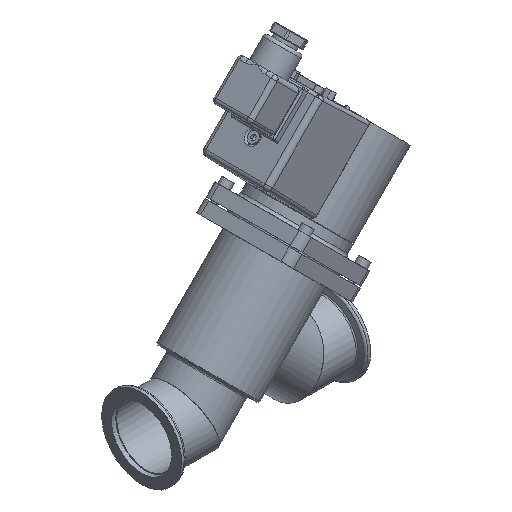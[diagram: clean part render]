
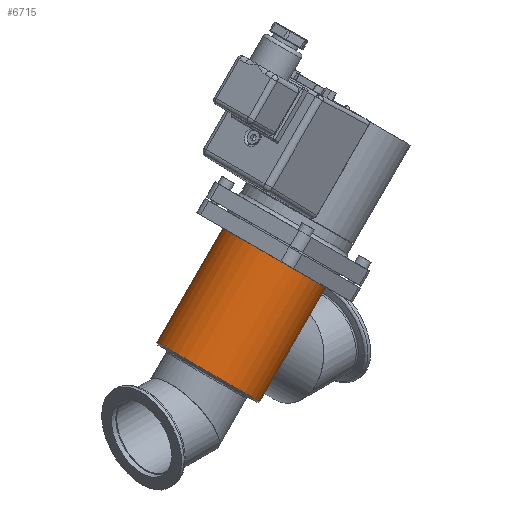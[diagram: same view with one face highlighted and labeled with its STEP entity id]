
A CAD part, isometric view. The second image highlights one B-rep face of the part: STEP entity #6715.
In plain terms, the highlighted cylindrical face has radius 28.95 mm (diameter 57.9 mm), a full revolution.
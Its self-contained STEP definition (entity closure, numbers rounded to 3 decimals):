
#1769=B_SPLINE_CURVE_WITH_KNOTS('',3,(#23989,#23990,#23991,#23992,#23993,
#23994,#23995,#23996,#23997,#23998,#23999,#24000,#24001,#24002,#24003,#24004,
#24005,#24006,#24007,#24008,#24009,#24010,#24011,#24012,#24013,#24014,#24015,
#24016,#24017,#24018,#24019,#24020,#24021,#24022),.UNSPECIFIED.,.T.,.F.,
(2,2,2,2,2,2,2,2,2,2,2,2,2,2,2,2,2,2,2),(-0.063,0.,0.062,
0.125,0.188,0.25,0.313,0.375,0.437,0.5,
0.562,0.625,0.688,0.75,0.813,0.875,0.938,1.,1.063),
 .UNSPECIFIED.);
#2715=CYLINDRICAL_SURFACE('',#17839,28.95);
#6715=ADVANCED_FACE('',(#7699,#7700,#7701),#2715,.T.);
#7699=FACE_BOUND('',#8142,.T.);
#7700=FACE_BOUND('',#8143,.T.);
#7701=FACE_BOUND('',#8144,.T.);
#8142=EDGE_LOOP('',(#9441));
#8143=EDGE_LOOP('',(#9442));
#8144=EDGE_LOOP('',(#9443));
#9441=ORIENTED_EDGE('',*,*,#15065,.T.);
#9442=ORIENTED_EDGE('',*,*,#15066,.T.);
#9443=ORIENTED_EDGE('',*,*,#15067,.F.);
#13611=VERTEX_POINT('',#23986);
#13612=VERTEX_POINT('',#23988);
#13613=VERTEX_POINT('',#24023);
#15065=EDGE_CURVE('',#13611,#13611,#17155,.T.);
#15066=EDGE_CURVE('',#13612,#13612,#17156,.T.);
#15067=EDGE_CURVE('',#13613,#13613,#1769,.T.);
#17155=CIRCLE('',#17837,28.95);
#17156=CIRCLE('',#17838,28.95);
#17837=AXIS2_PLACEMENT_3D('',#23985,#19560,#19561);
#17838=AXIS2_PLACEMENT_3D('',#23987,#19562,#19563);
#17839=AXIS2_PLACEMENT_3D('',#24024,#19564,#19565);
#19560=DIRECTION('',(1.,0.,0.));
#19561=DIRECTION('',(0.,0.,1.));
#19562=DIRECTION('',(-1.,0.,0.));
#19563=DIRECTION('',(0.,0.,1.));
#19564=DIRECTION('',(-1.,0.,0.));
#19565=DIRECTION('',(0.,0.,1.));
#23985=CARTESIAN_POINT('',(38.,0.,0.));
#23986=CARTESIAN_POINT('',(38.,0.,28.95));
#23987=CARTESIAN_POINT('',(102.,0.,0.));
#23988=CARTESIAN_POINT('',(102.,0.,28.95));
#23989=CARTESIAN_POINT('',(67.749,20.931,-20.));
#23990=CARTESIAN_POINT('',(62.251,20.931,-20.));
#23991=CARTESIAN_POINT('',(59.597,21.502,-19.429));
#23992=CARTESIAN_POINT('',(54.838,23.16,-17.419));
#23993=CARTESIAN_POINT('',(52.717,24.223,-15.984));
#23994=CARTESIAN_POINT('',(49.133,26.223,-12.433));
#23995=CARTESIAN_POINT('',(47.661,27.168,-10.307));
#23996=CARTESIAN_POINT('',(45.591,28.534,-5.493));
#23997=CARTESIAN_POINT('',(45.007,28.945,-2.776));
#23998=CARTESIAN_POINT('',(44.993,28.955,2.679));
#23999=CARTESIAN_POINT('',(45.56,28.556,5.383));
#24000=CARTESIAN_POINT('',(47.611,27.201,10.224));
#24001=CARTESIAN_POINT('',(49.083,26.253,12.374));
#24002=CARTESIAN_POINT('',(52.684,24.24,15.961));
#24003=CARTESIAN_POINT('',(54.771,23.188,17.383));
#24004=CARTESIAN_POINT('',(59.565,21.508,19.423));
#24005=CARTESIAN_POINT('',(62.255,20.937,19.994));
#24006=CARTESIAN_POINT('',(67.655,20.925,20.006));
#24007=CARTESIAN_POINT('',(70.367,21.491,19.442));
#24008=CARTESIAN_POINT('',(75.169,23.161,17.418));
#24009=CARTESIAN_POINT('',(77.271,24.217,15.994));
#24010=CARTESIAN_POINT('',(80.865,26.222,12.438));
#24011=CARTESIAN_POINT('',(82.346,27.173,10.296));
#24012=CARTESIAN_POINT('',(84.416,28.539,5.47));
#24013=CARTESIAN_POINT('',(84.994,28.946,2.756));
#24014=CARTESIAN_POINT('',(85.006,28.954,-2.662));
#24015=CARTESIAN_POINT('',(84.442,28.557,-5.386));
#24016=CARTESIAN_POINT('',(82.369,27.188,-10.263));
#24017=CARTESIAN_POINT('',(80.887,26.235,-12.409));
#24018=CARTESIAN_POINT('',(77.306,24.235,-15.967));
#24019=CARTESIAN_POINT('',(75.175,23.168,-17.409));
#24020=CARTESIAN_POINT('',(70.448,21.514,-19.414));
#24021=CARTESIAN_POINT('',(67.749,20.931,-20.));
#24022=CARTESIAN_POINT('',(62.251,20.931,-20.));
#24023=CARTESIAN_POINT('',(65.,20.931,-20.));
#24024=CARTESIAN_POINT('',(0.,0.,0.));
